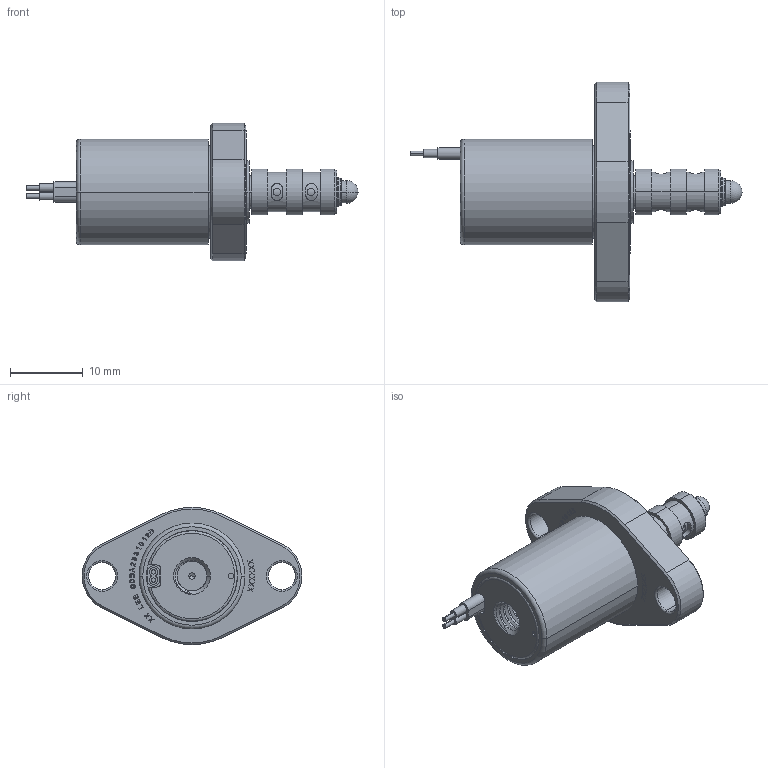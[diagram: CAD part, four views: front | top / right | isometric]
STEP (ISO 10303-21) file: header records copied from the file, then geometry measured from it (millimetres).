
FILE_DESCRIPTION(('Creo Elements/Direct Modeling STEP Export'),'2;1');
FILE_NAME('SDBA2531012B.stp','2021-03-31T15:55:06',(''),(''),'Creo Elements/Direct Modeling STEP processor for AP214 (Solid Model)','Creo Elements/Direct Modeling 18.1 03-Mar-2012 (C) Parametric Technology GmbH','');
FILE_SCHEMA(('AUTOMOTIVE_DESIGN { 1 0 10303 214 1 1 1 1 }'));
Length unit declared in the file: millimetre
Products named in the file (2): SDBA2531012B
Assembly tree (1 placements, depth 2):
  SDBA2531012B
    SDBA2531012B
Bounding box: 45.8 x 30.27 x 18.95 mm (x, y, z)
Volume: 5219.4 mm3; surface area: 2999.3 mm2
Topology: 1 solids, 13 shells, 942 faces, 2529 edges, 1667 vertices
Faces by surface type: plane 761, cylinder 124, cone 34, torus 19, bspline 2, sphere 2
Entity records: 36938 total; most frequent: CARTESIAN_POINT 13118, ORIENTED_EDGE 5050, DIRECTION 4399, EDGE_CURVE 2525, VECTOR 2157, LINE 2157, VERTEX_POINT 1667, AXIS2_PLACEMENT_3D 1121
